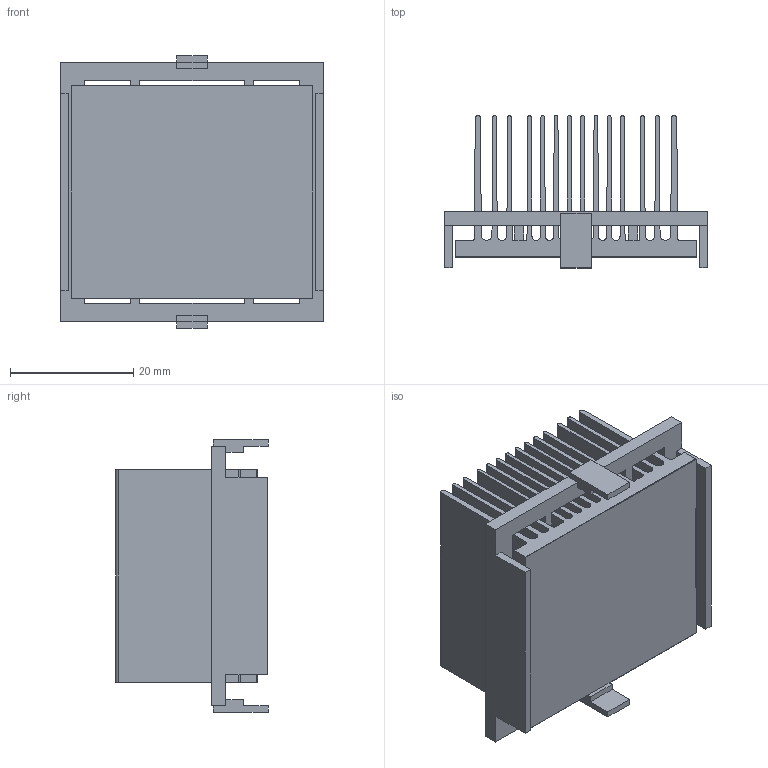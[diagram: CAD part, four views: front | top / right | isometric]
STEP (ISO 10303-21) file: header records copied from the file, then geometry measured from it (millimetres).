
FILE_DESCRIPTION (( 'STEP AP214' ), '1' );
FILE_NAME ('INH40001-23-2.6BU.STEP', '2023-02-20T19:48:05', ( '' ), ( '' ), 'SwSTEP 2.0', 'SolidWorks 2020', '' );
FILE_SCHEMA (( 'AUTOMOTIVE_DESIGN' ));
Length unit declared in the file: millimetre
Products named in the file (1): INH40001-23-2.6BU
Bounding box: 42.7 x 24.76 x 44.2 mm (x, y, z)
Volume: 13162.7 mm3; surface area: 28484.8 mm2
Topology: 3 solids, 3 shells, 154 faces, 444 edges, 296 vertices
Faces by surface type: plane 112, cylinder 42
Entity records: 6782 total; most frequent: CARTESIAN_POINT 895, ORIENTED_EDGE 888, DIRECTION 838, EDGE_CURVE 444, LINE 360, VECTOR 360, VERTEX_POINT 296, AXIS2_PLACEMENT_3D 239
